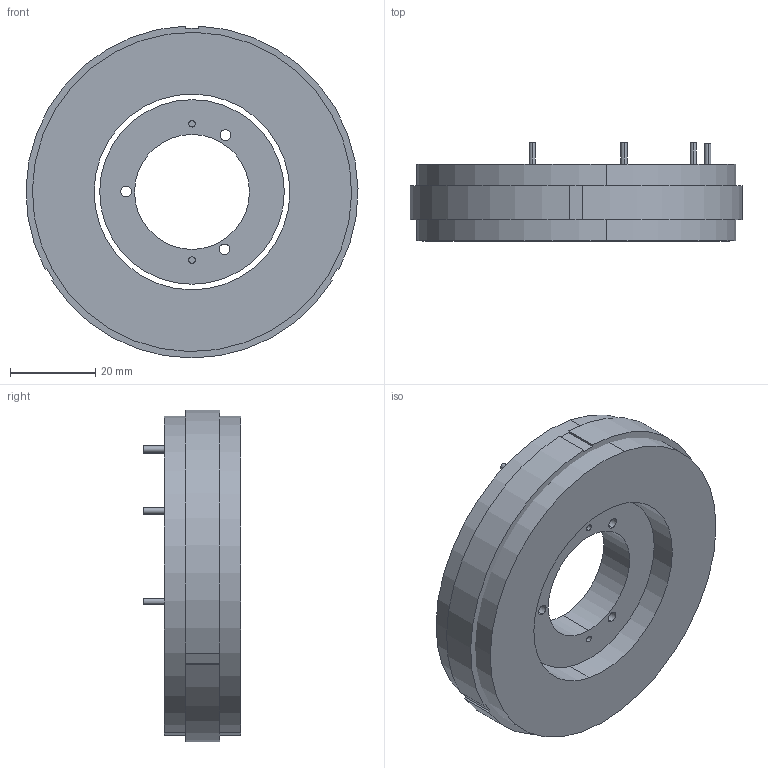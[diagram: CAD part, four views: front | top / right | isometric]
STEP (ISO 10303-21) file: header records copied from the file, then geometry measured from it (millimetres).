
FILE_DESCRIPTION (( 'STEP AP203' ), '1' );
FILE_NAME ('TMX78-17 KIT 3D.STEP', '2021-06-08T00:02:42', ( '' ), ( '' ), 'SwSTEP 2.0', 'SolidWorks 2021', '' );
FILE_SCHEMA (( 'CONFIG_CONTROL_DESIGN' ));
Length unit declared in the file: millimetre
Products named in the file (1): TMX78-17 KIT 3D
Bounding box: 77.99 x 23 x 77.97 mm (x, y, z)
Volume: 63416.8 mm3; surface area: 21797.7 mm2
Topology: 3 solids, 3 shells, 117 faces, 309 edges, 206 vertices
Faces by surface type: cylinder 76, plane 41
Entity records: 3792 total; most frequent: DIRECTION 697, CARTESIAN_POINT 633, ORIENTED_EDGE 618, EDGE_CURVE 309, AXIS2_PLACEMENT_3D 270, VERTEX_POINT 206, VECTOR 157, LINE 157
